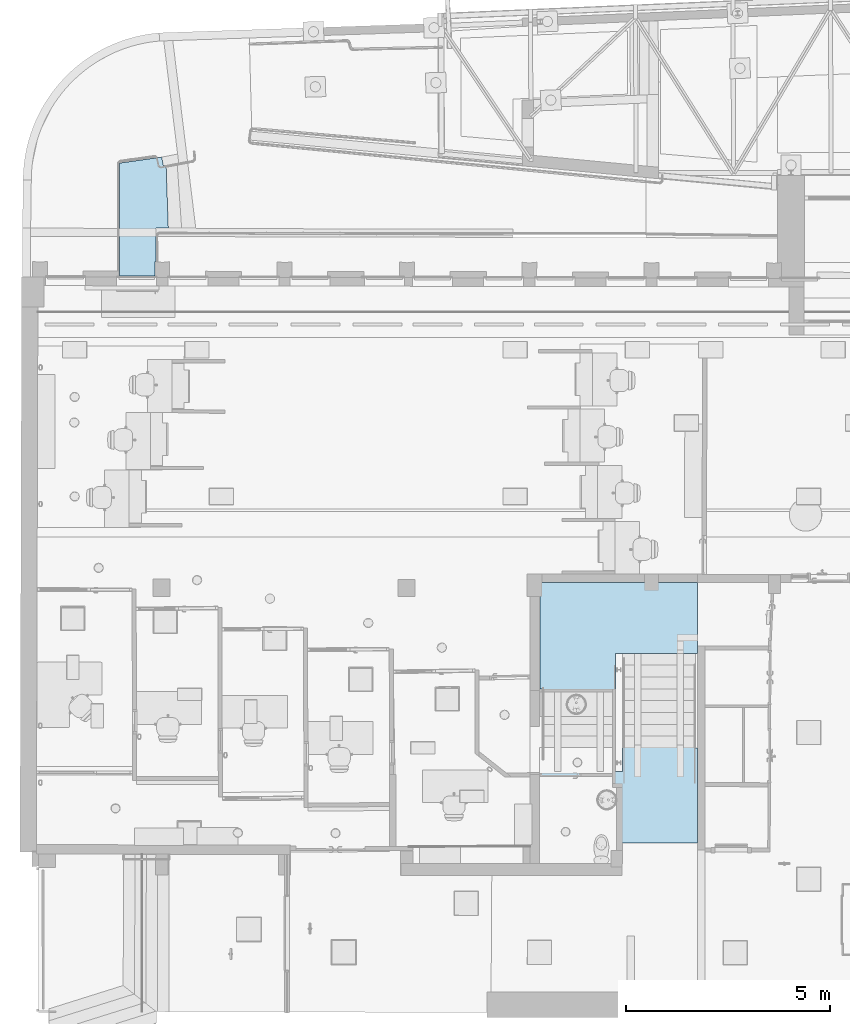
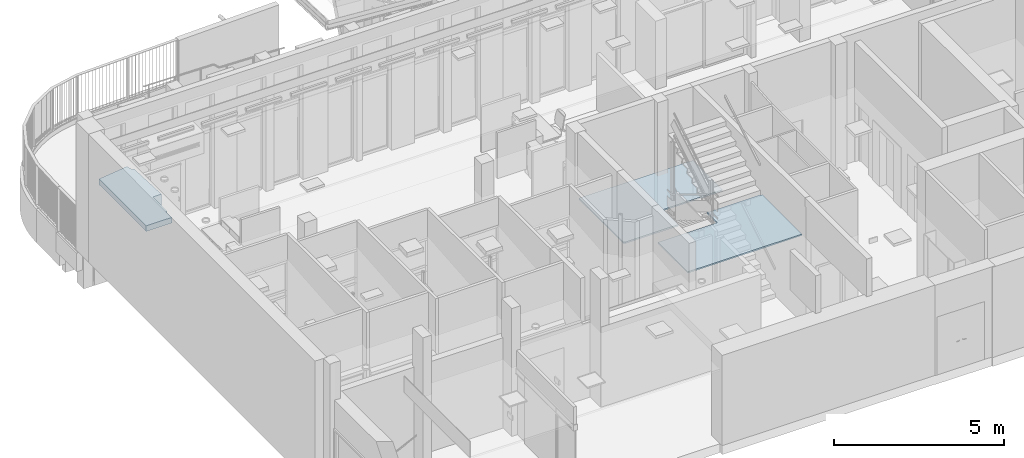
# One storey, part 36 of 128: 3 slabs, 2 elements without a shape of their own.
"""IFC2X3 building model written with IfcOpenShell, lengths in metres."""

from ifc_helpers import new_model, entity, si_unit, converted_unit, derived_unit, direction, frame, origin, place, context, subcontext, project, spatial, faceted_brep, material, type_object, element, aggregate, save


model = new_model("IFC2X3")

# Units and contexts
model_context = context("Model", 3, precision=1e-05, world=origin(), true_north=direction((6.123031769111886e-17, 1.0)))
body_context = subcontext(model_context, "Body", "Model", "MODEL_VIEW")
ifc_project = project(units=[si_unit("LENGTHUNIT", "METRE"), si_unit("AREAUNIT", "SQUARE_METRE"), converted_unit("PLANEANGLEUNIT", "DEGREE", entity("IfcPlaneAngleMeasure", 0.017453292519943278), si_unit("PLANEANGLEUNIT", "RADIAN"), dimensions=[0, 0, 0, 0, 0, 0, 0]), derived_unit("THERMALTRANSMITTANCEUNIT", [(si_unit("MASSUNIT", "GRAM", prefix="KILO"), 1), (si_unit("THERMODYNAMICTEMPERATUREUNIT", "KELVIN"), -1), (si_unit("TIMEUNIT", "SECOND"), -3)])], contexts=[model_context])

# Site, building, storey
site_placement = place(None, origin())
site = spatial("IfcSite", under=ifc_project, at=site_placement, Name="Default", CompositionType="ELEMENT")
building_placement = place(site_placement, origin())
building = spatial("IfcBuilding", under=site, at=building_placement, CompositionType="ELEMENT")
storey_placement = place(building_placement, origin())
storey = spatial("IfcBuildingStorey", under=building, at=storey_placement, Name="00_RDC CAF", CompositionType="ELEMENT", Elevation=2.4982504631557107e-13)

# Stair, slabs
type_product_1 = type_object("IfcTypeProduct", Name="Escalier assemblé:E_Escalier_Assemble_Béton 2")
stair_1_placement = place(storey_placement, origin())
stair_1 = element("IfcStair", 1, at=stair_1_placement, inside=storey, type_object=type_product_1, Name="Escalier assemblé:Escalier", ObjectType="Escalier assemblé:E_Escalier_Assemble_Béton 2", ShapeType="NOTDEFINED")
ifc_material = material(Name="STR - Beton")
slab_type_1 = type_object("IfcSlabType", Name="Palier non-monobloc:Palier non-monobloc", PredefinedType="LANDING")
slab_1_placement = place(stair_1_placement, frame((19.016521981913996, 134.04780366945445, 0.0)))
slab_1 = element("IfcSlab", 2, at=slab_1_placement, type_object=slab_type_1, material=ifc_material, Name="Escalier assemblé:Escalier:459485 Landing 1", ObjectType="Palier non-monobloc:Palier non-monobloc", PredefinedType="LANDING", context=body_context, shape_type="Brep", body=[
    faceted_brep([(2.012605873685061, 0.8956793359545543, 1.9368461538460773), (3.812605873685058, 0.8956793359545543, 1.9368461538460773), (3.8626058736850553, 0.8956793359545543, 1.9368461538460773), (3.8626058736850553, 2.6349813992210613, 1.9368461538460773), (0.0, 2.6349813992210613, 1.9368461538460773), (0.0, 0.025679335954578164, 1.9368461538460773), (0.049999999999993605, 0.025679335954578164, 1.9368461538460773), (0.049999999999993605, 0.005679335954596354, 1.9368461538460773), (1.8499999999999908, 0.005679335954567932, 1.9368461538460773), (1.8499999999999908, 0.025679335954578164, 1.9368461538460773), (1.8499999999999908, 0.8956793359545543, 1.9368461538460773), (3.812605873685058, 0.8956793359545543, 1.8868461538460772), (2.012605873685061, 0.8956793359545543, 1.8868461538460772), (1.8499999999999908, 0.8956793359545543, 1.8868461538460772), (1.8499999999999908, 0.025679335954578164, 1.8868461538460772), (1.8499999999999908, 0.0, 1.8868461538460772), (0.049999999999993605, 0.0, 1.8868461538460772), (0.049999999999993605, 0.025679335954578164, 1.8868461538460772), (0.0, 0.025679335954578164, 1.8868461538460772), (0.0, 2.6349813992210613, 1.8868461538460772), (3.8626058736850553, 2.6349813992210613, 1.8868461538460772), (3.8626058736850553, 0.8956793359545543, 1.8868461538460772)], [[[0, 1, 2, 3, 4, 5, 6, 7, 8, 9, 10]], [[11, 12, 13, 14, 15, 16, 17, 18, 19, 20, 21]], [[1, 0, 12, 11]], [[3, 2, 21, 20]], [[4, 3, 20, 19]], [[5, 4, 19, 18]], [[6, 5, 18, 17]], [[7, 6, 17, 16]], [[10, 9, 14, 13]], [[0, 10, 13, 12]], [[9, 8, 15, 14]], [[7, 16, 15, 8]], [[2, 1, 11, 21]]]),
])
slab_2_placement = place(stair_1_placement, frame((19.016521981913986, 130.29548300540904, 0.0)))
slab_2 = element("IfcSlab", 3, at=slab_2_placement, type_object=slab_type_1, material=ifc_material, Name="Escalier assemblé:Escalier:459485 Landing 2", ObjectType="Palier non-monobloc:Palier non-monobloc", PredefinedType="LANDING", context=body_context, shape_type="Brep", body=[
    faceted_brep([(1.8499999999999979, 1.747999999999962, 3.169384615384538), (0.05000000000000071, 1.747999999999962, 3.169384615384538), (0.0, 1.747999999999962, 3.169384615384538), (0.0, 0.0, 3.169384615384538), (3.862605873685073, 0.0, 3.169384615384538), (3.862605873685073, 2.3279999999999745, 3.169384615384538), (3.8126058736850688, 2.3279999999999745, 3.169384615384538), (3.8126058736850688, 2.3479999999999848, 3.169384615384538), (2.0126058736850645, 2.3479999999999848, 3.169384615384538), (2.0126058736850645, 2.3279999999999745, 3.169384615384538), (2.0126058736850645, 1.747999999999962, 3.169384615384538), (0.05000000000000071, 1.747999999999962, 3.119384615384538), (1.8499999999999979, 1.747999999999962, 3.119384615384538), (2.0126058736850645, 1.747999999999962, 3.119384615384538), (2.0126058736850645, 2.3279999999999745, 3.119384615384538), (2.0126058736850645, 2.3536793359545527, 3.119384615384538), (3.8126058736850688, 2.3536793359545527, 3.119384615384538), (3.8126058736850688, 2.3279999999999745, 3.119384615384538), (3.862605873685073, 2.3279999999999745, 3.119384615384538), (3.862605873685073, 0.0, 3.119384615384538), (0.0, 0.0, 3.119384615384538), (0.0, 1.747999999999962, 3.119384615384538)], [[[0, 1, 2, 3, 4, 5, 6, 7, 8, 9, 10]], [[11, 12, 13, 14, 15, 16, 17, 18, 19, 20, 21]], [[1, 0, 12, 11]], [[3, 2, 21, 20]], [[4, 3, 20, 19]], [[5, 4, 19, 18]], [[6, 5, 18, 17]], [[7, 6, 17, 16]], [[10, 9, 14, 13]], [[0, 10, 13, 12]], [[2, 1, 11, 21]], [[7, 16, 15, 8]], [[9, 8, 15, 14]]]),
])
aggregate(stair_1, [slab_1, slab_2])

# Stair, slab
type_product_2 = type_object("IfcTypeProduct", Name="Escalier coulé sur place:E_Coule_en_place_Beton_Paillasse_550mm")
stair_2_placement = place(storey_placement, origin())
stair_2 = element("IfcStair", 4, at=stair_2_placement, inside=storey, type_object=type_product_2, Name="Escalier coulé sur place:Escalier", ObjectType="Escalier coulé sur place:E_Coule_en_place_Beton_Paillasse_550mm", ShapeType="STRAIGHT_RUN_STAIR")
slab_type_2 = type_object("IfcSlabType", Name="Palier monobloc:S_Beton_200 mm", PredefinedType="LANDING")
slab_3_placement = place(stair_2_placement, frame((8.699242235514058, 144.1941280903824, 0.0)))
slab_3 = element("IfcSlab", 5, at=slab_3_placement, type_object=slab_type_2, material=ifc_material, Name="Escalier coulé sur place:Escalier:460808 Landing 1", ObjectType="Palier monobloc:S_Beton_200 mm", PredefinedType="LANDING", context=body_context, shape_type="Brep", body=[
    faceted_brep([(0.8681801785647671, 0.3549995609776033, 0.0), (0.8975020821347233, 0.351739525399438, 0.0), (0.8975020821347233, 1.183354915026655, 0.0), (1.1983280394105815, 1.183354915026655, 0.0), (1.1449069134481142, 2.7131358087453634, 0.0), (1.0777555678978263, 2.7000829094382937, 0.0), (1.0357775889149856, 2.916040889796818, 0.0), (0.0, 2.7704718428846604, 0.0), (0.0, 0.0013645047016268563, 0.0), (0.8676218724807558, 0.0, 0.0), (0.0, 2.7704718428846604, -0.20000000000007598), (0.0, 0.0013645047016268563, -0.20000000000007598), (0.8676218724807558, 0.0, -0.20000000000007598), (0.8681801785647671, 0.3549995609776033, -0.20000000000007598), (0.8975020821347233, 0.351739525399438, -0.20000000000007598), (0.8975020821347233, 1.183354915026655, -0.20000000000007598), (0.024456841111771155, 1.183354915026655, -0.20000000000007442), (0.17569620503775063, 1.183354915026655, -0.2747015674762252), (0.3268162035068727, 1.183354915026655, -0.34963111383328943), (0.47784399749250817, 1.183354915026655, -0.4247457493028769), (0.6288028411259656, 1.183354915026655, -0.49999999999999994), (1.1983280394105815, 1.183354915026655, -0.49999999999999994), (1.1983280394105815, 1.183354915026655, -0.16666666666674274), (1.1449069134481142, 2.7131358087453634, -0.1666666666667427), (1.1449069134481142, 2.7131358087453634, -0.49999999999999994), (0.6854467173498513, 2.6238257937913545, -0.49999999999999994), (0.5603657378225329, 2.5995125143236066, -0.42411368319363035), (0.4349531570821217, 2.5751347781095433, -0.3487920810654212), (0.3091883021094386, 2.550688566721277, -0.27407484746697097), (0.18305133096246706, 2.526170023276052, -0.2000000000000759), (1.0777555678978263, 2.7000829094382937, -0.20000000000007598), (1.0357775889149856, 2.916040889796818, -0.20000000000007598), (0.6350965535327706, 1.3434072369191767, -0.49999999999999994), (0.6413902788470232, 1.5034595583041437, -0.49999999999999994), (0.6476840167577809, 1.663511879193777, -0.49999999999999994), (0.6539777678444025, 1.8235641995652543, -0.49999999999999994), (0.6602715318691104, 1.9836165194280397, -0.49999999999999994), (0.6665653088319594, 2.1436688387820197, -0.49999999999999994), (0.6728590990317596, 2.3037211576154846, -0.49999999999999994), (0.6791529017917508, 2.463773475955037, -0.49999999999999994), (0.16542972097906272, 2.3769683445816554, -0.20000000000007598), (0.14780811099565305, 2.227766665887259, -0.20000000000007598), (0.13018650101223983, 2.078564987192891, -0.20000000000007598), (0.11256489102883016, 1.929363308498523, -0.20000000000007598), (0.09494328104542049, 1.7801616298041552, -0.20000000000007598), (0.07732167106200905, 1.6309599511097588, -0.20000000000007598), (0.0597000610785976, 1.4817582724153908, -0.20000000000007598), (0.04207845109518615, 1.3325565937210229, -0.20000000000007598), (0.4587279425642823, 1.894322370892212, -0.39124759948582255), (0.26548907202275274, 1.8651592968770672, -0.2870419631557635)], [[[0, 1, 2, 3, 4, 5, 6, 7, 8, 9]], [[8, 7, 10, 11]], [[9, 8, 11, 12]], [[0, 9, 12, 13]], [[1, 0, 13, 14]], [[2, 1, 14, 15]], [[15, 16, 17, 18, 19, 20, 21, 22, 3, 2]], [[4, 23, 24, 25, 26, 27, 28, 29, 30, 5]], [[6, 5, 30, 31]], [[7, 6, 31, 10]], [[21, 20, 32, 33, 34, 35, 36, 37, 38, 39, 25, 24]], [[31, 30, 29, 40, 41, 42, 43, 44, 45, 46, 47, 16, 15, 14, 13, 12, 11, 10]], [[23, 4, 3, 22, 21, 24]], [[32, 19, 33]], [[19, 32, 20]], [[34, 19, 48]], [[19, 34, 33]], [[27, 26, 48]], [[48, 37, 36]], [[36, 35, 48]], [[39, 38, 26]], [[26, 25, 39]], [[38, 37, 26]], [[48, 35, 34]], [[18, 17, 49]], [[45, 44, 43, 42, 41, 49]], [[45, 17, 16, 47, 46]], [[49, 27, 48]], [[49, 41, 28]], [[18, 48, 19]], [[26, 37, 48]], [[40, 29, 28, 41]], [[27, 49, 28]], [[18, 49, 48]], [[49, 17, 45]]]),
])
aggregate(stair_2, [slab_3])

save(model, "model.ifc")
